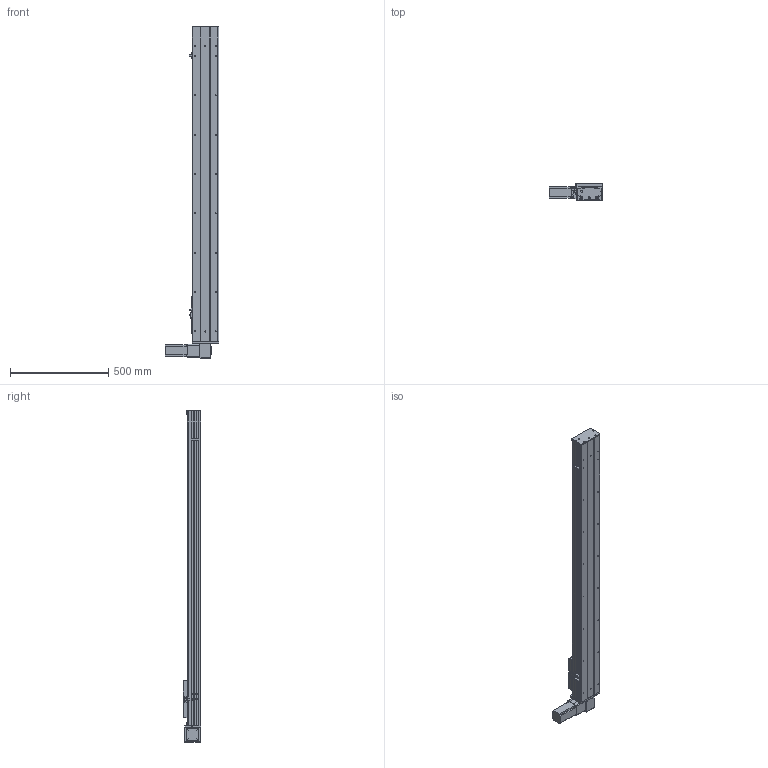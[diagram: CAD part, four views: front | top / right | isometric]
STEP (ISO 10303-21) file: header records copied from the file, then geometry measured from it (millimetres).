
FILE_DESCRIPTION (( 'STEP AP203' ), '1' );
FILE_NAME ('Y135CB-D90-S1300-BD-P400W.STEP', '2020-02-19T03:37:28', ( '微软用户' ), ( '微软中国' ), 'SwSTEP 2.0', 'SolidWorks 2017', '' );
FILE_SCHEMA (( 'CONFIG_CONTROL_DESIGN' ));
Length unit declared in the file: millimetre
Products named in the file (16): C-詩湍揤踡え-陔; 135CB--詩湍-CE; Y135CB-耜裔; Y100-135俋离換覜ん--; 135CB---遴掛极.-; Y135C-陔俋离換覜結え-; 35CB---喘謫眊楊擘啣; C-雄赽釱--; 5C--俋欶; 0B-埴倛裔啣; Y10B--々湍喘謫眊--666; 0B-源倛裔啣; 0B-薊粣ん眊; Y135CB-D90-S1300-BD-P400W; san松下电机400不带刹车----; 5CB --掛极耜裔啣-
Assembly tree (19 placements, depth 2):
  Y135CB-D90-S1300-BD-P400W
    Y135CB-耜裔
    135CB---遴掛极.-
    35CB---喘謫眊楊擘啣
    0B-埴倛裔啣
    0B-源倛裔啣
    san松下电机400不带刹车----
    5CB --掛极耜裔啣-  x2
    C-詩湍揤踡え-陔  x2
    135CB--詩湍-CE
    Y100-135俋离換覜ん--  x3
    Y135C-陔俋离換覜結え-
    5C--俋欶
    C-雄赽釱--
    Y10B--々湍喘謫眊--666
    0B-薊粣ん眊
Bounding box: 272 x 91 x 1688 mm (x, y, z)
Volume: 5165751.9 mm3; surface area: 1985305.9 mm2
Topology: 19 solids, 19 shells, 863 faces, 2302 edges, 1524 vertices
Faces by surface type: cylinder 432, plane 415, cone 16
Entity records: 26410 total; most frequent: DIRECTION 4402, CARTESIAN_POINT 4335, ORIENTED_EDGE 4080, EDGE_CURVE 2040, AXIS2_PLACEMENT_3D 1615, VERTEX_POINT 1352, LINE 1172, VECTOR 1172
